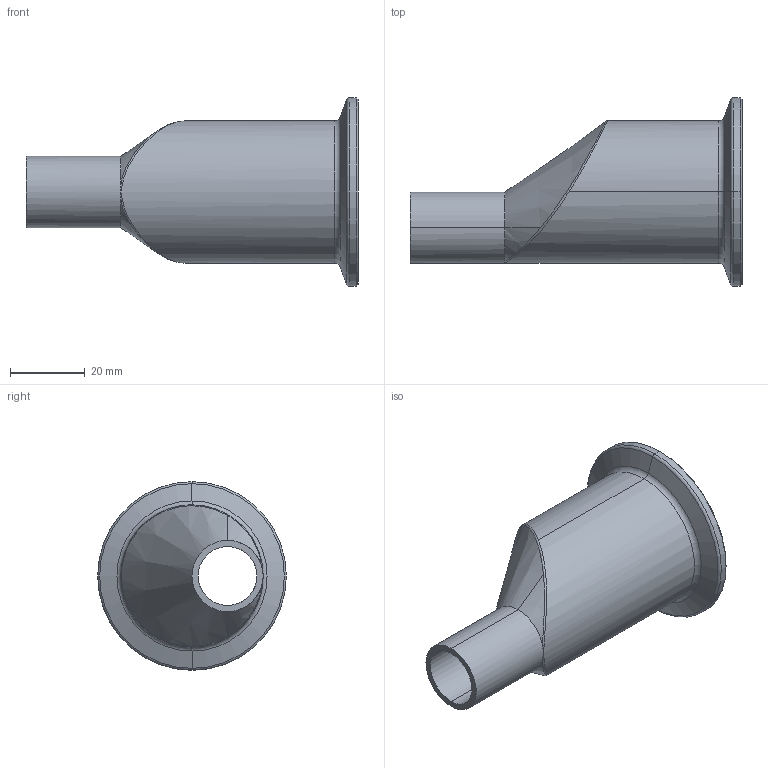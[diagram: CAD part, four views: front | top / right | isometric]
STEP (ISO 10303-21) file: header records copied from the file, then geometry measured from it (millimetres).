
FILE_DESCRIPTION (( 'STEP AP214' ), '1' );
FILE_NAME ('TE32SCW6L1.5x.75-...STEP', '2016-06-01T09:30:37', ( 'eran' ), ( '' ), 'SwSTEP 2.0', 'SolidWorks 2016', '' );
FILE_SCHEMA (( 'AUTOMOTIVE_DESIGN' ));
Length unit declared in the file: millimetre
Products named in the file (1): TE32SCW6L1.5x.75-..
Bounding box: 88.9 x 50.5 x 50.5 mm (x, y, z)
Volume: 38635.7 mm3; surface area: 16796.7 mm2
Topology: 1 solids, 1 shells, 53 faces, 118 edges, 64 vertices
Faces by surface type: cone 19, torus 13, cylinder 13, bspline 5, plane 3
Entity records: 2255 total; most frequent: CARTESIAN_POINT 1092, DIRECTION 252, ORIENTED_EDGE 228, EDGE_CURVE 114, AXIS2_PLACEMENT_3D 112, VERTEX_POINT 64, CIRCLE 63, EDGE_LOOP 56
